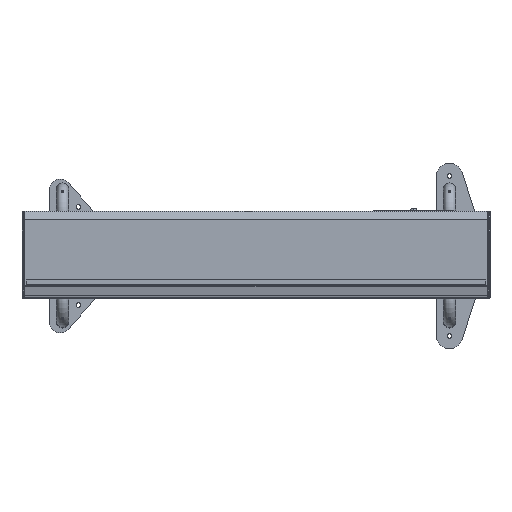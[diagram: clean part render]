
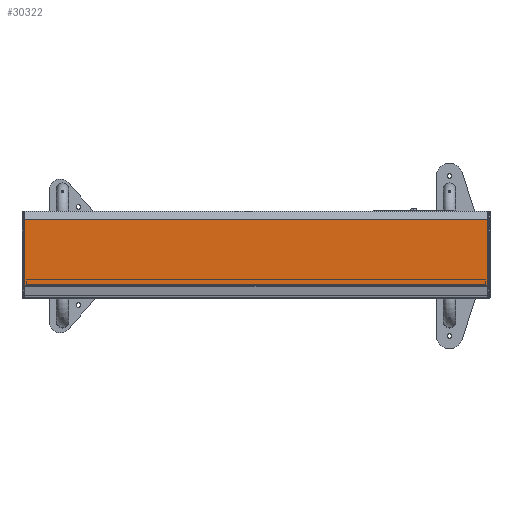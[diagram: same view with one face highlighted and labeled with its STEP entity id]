
A CAD part, top view. The second image highlights one B-rep face of the part: STEP entity #30322.
In plain terms, the highlighted planar face has unit normal (0, 0, 1).
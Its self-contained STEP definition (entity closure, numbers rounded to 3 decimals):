
#9332=ORIENTED_EDGE('',*,*,#13430,.F.);
#9333=ORIENTED_EDGE('',*,*,#13422,.T.);
#9334=ORIENTED_EDGE('',*,*,#13428,.F.);
#9335=ORIENTED_EDGE('',*,*,#13431,.T.);
#9336=ORIENTED_EDGE('',*,*,#13432,.F.);
#9337=ORIENTED_EDGE('',*,*,#13351,.T.);
#9338=ORIENTED_EDGE('',*,*,#13433,.F.);
#9339=ORIENTED_EDGE('',*,*,#13434,.T.);
#13351=EDGE_CURVE('',#16159,#16158,#18259,.T.);
#13422=EDGE_CURVE('',#16207,#16209,#18304,.T.);
#13428=EDGE_CURVE('',#16211,#16209,#18310,.T.);
#13430=EDGE_CURVE('',#16207,#16212,#18312,.T.);
#13431=EDGE_CURVE('',#16211,#16213,#18313,.T.);
#13432=EDGE_CURVE('',#16159,#16213,#18314,.T.);
#13433=EDGE_CURVE('',#16214,#16158,#18315,.T.);
#13434=EDGE_CURVE('',#16214,#16212,#18316,.T.);
#16158=VERTEX_POINT('',#60065);
#16159=VERTEX_POINT('',#60067);
#16207=VERTEX_POINT('',#60209);
#16209=VERTEX_POINT('',#60214);
#16211=VERTEX_POINT('',#60227);
#16212=VERTEX_POINT('',#60232);
#16213=VERTEX_POINT('',#60234);
#16214=VERTEX_POINT('',#60237);
#18259=LINE('',#60066,#20309);
#18304=LINE('',#60215,#20354);
#18310=LINE('',#60228,#20360);
#18312=LINE('',#60231,#20362);
#18313=LINE('',#60233,#20363);
#18314=LINE('',#60235,#20364);
#18315=LINE('',#60236,#20365);
#18316=LINE('',#60238,#20366);
#20309=VECTOR('',#40744,1000.);
#20354=VECTOR('',#40895,1000.);
#20360=VECTOR('',#40911,1000.);
#20362=VECTOR('',#40915,1000.);
#20363=VECTOR('',#40916,1000.);
#20364=VECTOR('',#40917,1000.);
#20365=VECTOR('',#40918,1000.);
#20366=VECTOR('',#40919,1000.);
#22873=EDGE_LOOP('',(#9332,#9333,#9334,#9335,#9336,#9337,#9338,#9339));
#25470=FACE_BOUND('',#22873,.T.);
#26746=PLANE('',#33348);
#30322=ADVANCED_FACE('',(#25470),#26746,.F.);
#33348=AXIS2_PLACEMENT_3D('',#60230,#40913,#40914);
#40744=DIRECTION('',(1.,0.,0.));
#40895=DIRECTION('',(-1.,0.,0.));
#40911=DIRECTION('',(0.,1.,0.));
#40913=DIRECTION('',(0.,0.,-1.));
#40914=DIRECTION('',(0.,-1.,0.));
#40915=DIRECTION('',(0.,-1.,0.));
#40916=DIRECTION('',(0.,-1.,0.));
#40917=DIRECTION('',(0.,1.,0.));
#40918=DIRECTION('',(0.,-1.,0.));
#40919=DIRECTION('',(0.,1.,0.));
#60065=CARTESIAN_POINT('',(808.,-107.13,209.988));
#60066=CARTESIAN_POINT('',(-810.,-107.13,209.988));
#60067=CARTESIAN_POINT('',(-808.,-107.13,209.988));
#60209=CARTESIAN_POINT('',(808.,121.491,209.988));
#60214=CARTESIAN_POINT('',(-808.,121.491,209.988));
#60215=CARTESIAN_POINT('',(810.,121.491,209.988));
#60227=CARTESIAN_POINT('',(-808.,121.489,209.988));
#60228=CARTESIAN_POINT('',(-808.,121.489,209.988));
#60230=CARTESIAN_POINT('',(-810.,122.274,209.988));
#60231=CARTESIAN_POINT('',(808.,-107.128,209.988));
#60232=CARTESIAN_POINT('',(808.,121.489,209.988));
#60233=CARTESIAN_POINT('',(-808.,121.489,209.988));
#60234=CARTESIAN_POINT('',(-808.,-107.128,209.988));
#60235=CARTESIAN_POINT('',(-808.,121.489,209.988));
#60236=CARTESIAN_POINT('',(808.,-107.128,209.988));
#60237=CARTESIAN_POINT('',(808.,-107.128,209.988));
#60238=CARTESIAN_POINT('',(808.,-107.128,209.988));
